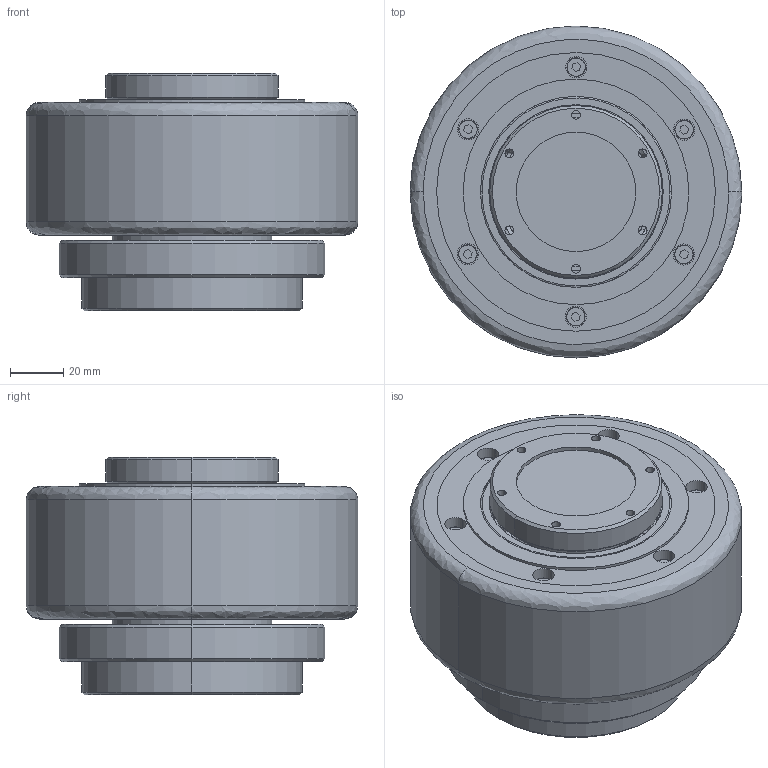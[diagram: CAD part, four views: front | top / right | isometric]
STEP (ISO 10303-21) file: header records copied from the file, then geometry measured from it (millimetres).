
FILE_DESCRIPTION (( 'STEP AP214' ), '1' );
FILE_NAME ('TYC 125-16-14.STEP', '2022-04-24T06:22:04', ( '' ), ( '' ), 'SwSTEP 2.0', 'SolidWorks 2018', '' );
FILE_SCHEMA (( 'AUTOMOTIVE_DESIGN' ));
Length unit declared in the file: millimetre
Products named in the file (1): TYC 125-16-14
Bounding box: 125 x 125 x 89.5 mm (x, y, z)
Volume: 789556.5 mm3; surface area: 203391.6 mm2
Topology: 18 solids, 18 shells, 864 faces, 2568 edges, 1611 vertices
Faces by surface type: bspline 320, cylinder 260, plane 194, cone 90
Entity records: 42526 total; most frequent: CARTESIAN_POINT 21658, ORIENTED_EDGE 4888, DIRECTION 3692, EDGE_CURVE 2444, VERTEX_POINT 1611, AXIS2_PLACEMENT_3D 1583, EDGE_LOOP 1051, CIRCLE 1038
